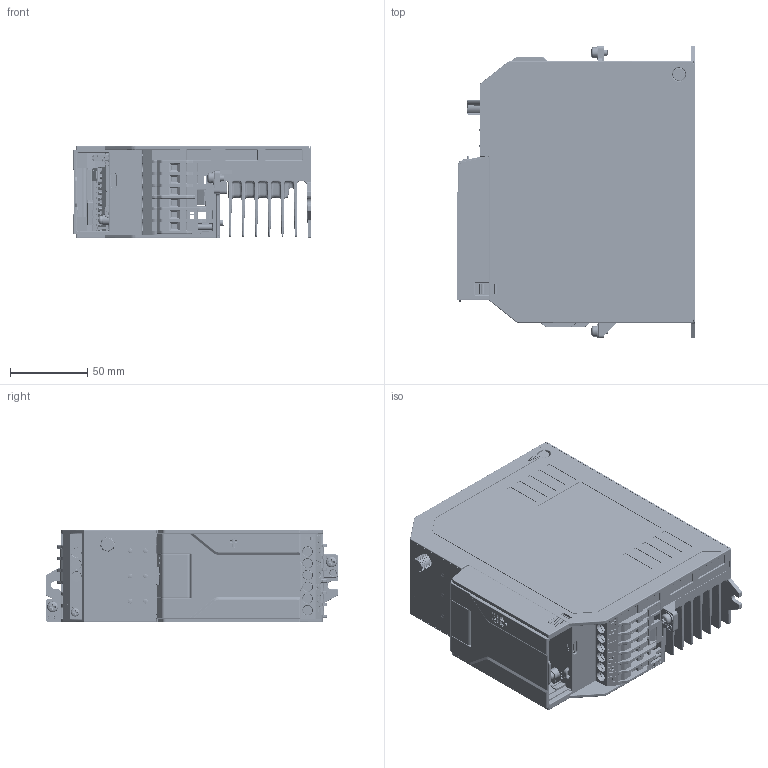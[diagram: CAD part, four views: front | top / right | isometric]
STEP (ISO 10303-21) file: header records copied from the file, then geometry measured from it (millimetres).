
FILE_DESCRIPTION((''),'2;1');
FILE_NAME('GD28_3PH_A_ASM','2025-09-11T11:44:35',('Administrator'),(''),'CREO PARAMETRIC BY PTC INC, 2019080','CREO PARAMETRIC BY PTC INC, 2019080','');
FILE_SCHEMA(('CONFIG_CONTROL_DESIGN'));
Products named in the file (3): GD28_3PH_A; 40810244; GD28_3PH_A_ASM
Assembly tree (2 placements, depth 2):
  GD28_3PH_A_ASM
    GD28_3PH_A
    40810244
Bounding box: 155 x 190 x 60 mm (x, y, z)
Volume: 215260.4 mm3; surface area: 341451.6 mm2
Topology: 28 solids, 61 shells, 14457 faces, 39643 edges, 25431 vertices
Faces by surface type: plane 8535, cylinder 3060, extrusion 1311, torus 646, bspline 415, cone 371, sphere 119
Entity records: 497615 total; most frequent: CARTESIAN_POINT 139485, ORIENTED_EDGE 78564, DIRECTION 66714, EDGE_CURVE 39524, VECTOR 28392, LINE 27081, VERTEX_POINT 25433, AXIS2_PLACEMENT_3D 19161
